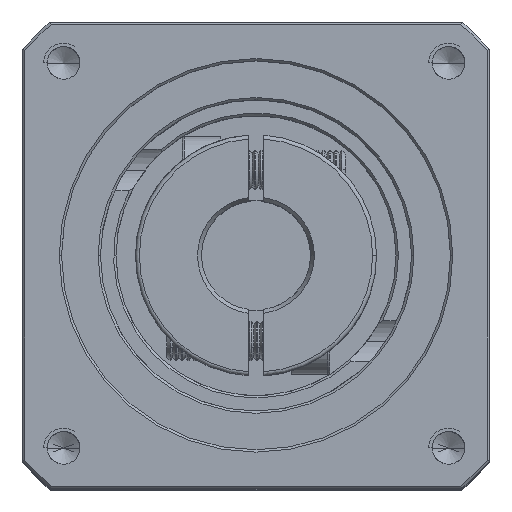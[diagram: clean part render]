
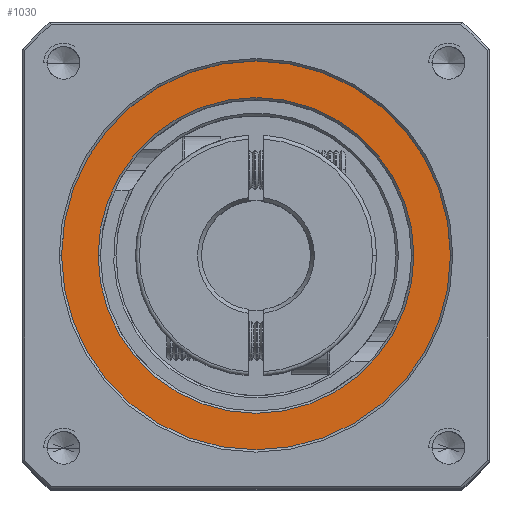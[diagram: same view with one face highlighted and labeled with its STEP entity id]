
A CAD part, top view. The second image highlights one B-rep face of the part: STEP entity #1030.
In plain terms, the highlighted planar face has unit normal (0, 0, 1).
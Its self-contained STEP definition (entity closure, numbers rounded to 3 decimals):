
#1030 = ADVANCED_FACE ( 'NONE', ( #104840, #77122 ), #37126, .T. ) ;
#5851 = EDGE_CURVE ( 'NONE', #42380, #66996, #79534, .T. ) ;
#12748 = AXIS2_PLACEMENT_3D ( 'NONE', #96055, #45602, #104535 ) ;
#13047 = CIRCLE ( 'NONE', #85588, 20.3 ) ;
#16202 = DIRECTION ( 'NONE',  ( 0., 0., -1. ) ) ;
#16320 = ORIENTED_EDGE ( 'NONE', *, *, #33327, .T. ) ;
#18049 = EDGE_CURVE ( 'NONE', #55203, #58951, #35358, .T. ) ;
#19286 = DIRECTION ( 'NONE',  ( 0., 0., 1. ) ) ;
#32219 = EDGE_LOOP ( 'NONE', ( #60210, #61003 ) ) ;
#33327 = EDGE_CURVE ( 'NONE', #58951, #55203, #78970, .T. ) ;
#33462 = DIRECTION ( 'NONE',  ( 1., 0., 0. ) ) ;
#35358 = CIRCLE ( 'NONE', #77813, 25. ) ;
#37126 = PLANE ( 'NONE',  #12748 ) ;
#42380 = VERTEX_POINT ( 'NONE', #103336 ) ;
#44410 = DIRECTION ( 'NONE',  ( 1., 0., 0. ) ) ;
#45602 = DIRECTION ( 'NONE',  ( 0., 0., 1. ) ) ;
#47940 = CARTESIAN_POINT ( 'NONE',  ( -59.679, 25.271, 13.438 ) ) ;
#55203 = VERTEX_POINT ( 'NONE', #96921 ) ;
#56369 = DIRECTION ( 'NONE',  ( 1., 0., 0. ) ) ;
#57495 = CARTESIAN_POINT ( 'NONE',  ( -84.679, 25.271, 13.438 ) ) ;
#58951 = VERTEX_POINT ( 'NONE', #57495 ) ;
#59956 = AXIS2_PLACEMENT_3D ( 'NONE', #81353, #107504, #56369 ) ;
#60210 = ORIENTED_EDGE ( 'NONE', *, *, #80286, .T. ) ;
#61003 = ORIENTED_EDGE ( 'NONE', *, *, #5851, .T. ) ;
#62658 = CARTESIAN_POINT ( 'NONE',  ( -39.379, 25.271, 13.438 ) ) ;
#63004 = ORIENTED_EDGE ( 'NONE', *, *, #18049, .T. ) ;
#66996 = VERTEX_POINT ( 'NONE', #62658 ) ;
#70166 = CARTESIAN_POINT ( 'NONE',  ( -59.679, 25.271, 13.438 ) ) ;
#70620 = EDGE_LOOP ( 'NONE', ( #63004, #16320 ) ) ;
#72221 = DIRECTION ( 'NONE',  ( 0., 0., 1. ) ) ;
#72600 = DIRECTION ( 'NONE',  ( 1., 0., 0. ) ) ;
#77122 = FACE_OUTER_BOUND ( 'NONE', #70620, .T. ) ;
#77813 = AXIS2_PLACEMENT_3D ( 'NONE', #70166, #19286, #44410 ) ;
#78970 = CIRCLE ( 'NONE', #105529, 25. ) ;
#79534 = CIRCLE ( 'NONE', #59956, 20.3 ) ;
#80286 = EDGE_CURVE ( 'NONE', #66996, #42380, #13047, .T. ) ;
#81353 = CARTESIAN_POINT ( 'NONE',  ( -59.679, 25.271, 13.438 ) ) ;
#85084 = CARTESIAN_POINT ( 'NONE',  ( -59.679, 25.271, 13.438 ) ) ;
#85588 = AXIS2_PLACEMENT_3D ( 'NONE', #85084, #16202, #33462 ) ;
#96055 = CARTESIAN_POINT ( 'NONE',  ( -59.679, 25.271, 13.438 ) ) ;
#96921 = CARTESIAN_POINT ( 'NONE',  ( -34.679, 25.271, 13.438 ) ) ;
#103336 = CARTESIAN_POINT ( 'NONE',  ( -79.979, 25.271, 13.438 ) ) ;
#104535 = DIRECTION ( 'NONE',  ( 1., 0., 0. ) ) ;
#104840 = FACE_BOUND ( 'NONE', #32219, .T. ) ;
#105529 = AXIS2_PLACEMENT_3D ( 'NONE', #47940, #72221, #72600 ) ;
#107504 = DIRECTION ( 'NONE',  ( 0., 0., -1. ) ) ;
